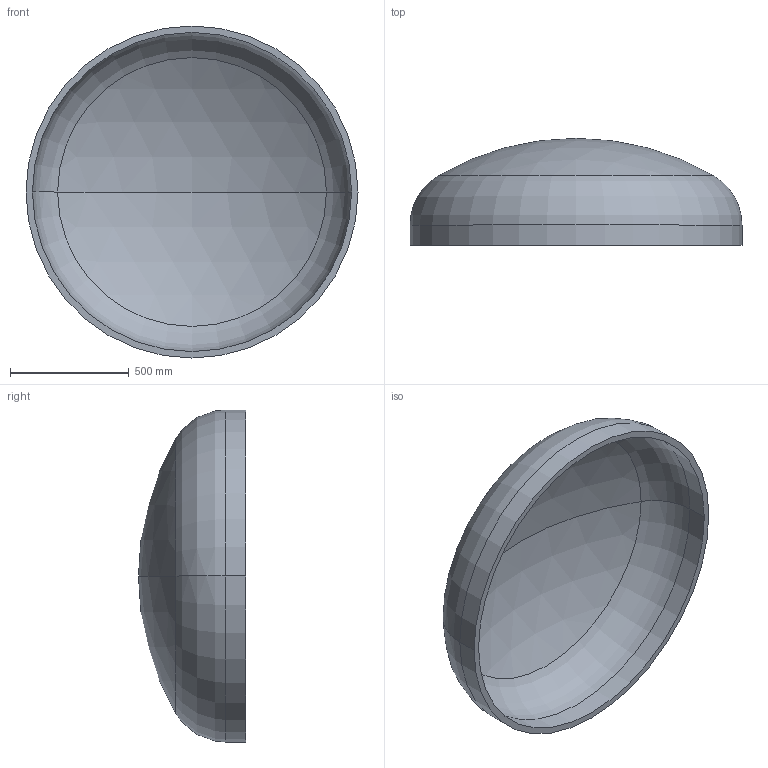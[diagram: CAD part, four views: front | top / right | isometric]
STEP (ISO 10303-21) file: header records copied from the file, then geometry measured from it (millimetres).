
FILE_DESCRIPTION (( 'STEP AP203' ), '1' );
FILE_NAME ('DIN 28013 Korbbogenform_-_Boden DIN 28013 - 1400 x 85 - I - s=27.step', '2016-07-01T10:13:13', ( '' ), ( '' ), 'SwSTEP 2.0', 'SolidWorks 2013', '' );
FILE_SCHEMA (( 'CONFIG_CONTROL_DESIGN' ));
Length unit declared in the file: millimetre
Products named in the file (1): DIN 28013 Korbbogenform_-_Boden DIN 28013 - 1400 x 85 - I - s=27
Bounding box: 1400 x 451.45 x 1400 mm (x, y, z)
Volume: 65988961 mm3; surface area: 5006058.4 mm2
Topology: 1 solids, 1 shells, 13 faces, 24 edges, 14 vertices
Faces by surface type: torus 4, cylinder 4, sphere 4, plane 1
Entity records: 407 total; most frequent: DIRECTION 72, CARTESIAN_POINT 52, ORIENTED_EDGE 48, AXIS2_PLACEMENT_3D 34, EDGE_CURVE 24, CIRCLE 20, EDGE_LOOP 14, VERTEX_POINT 14
